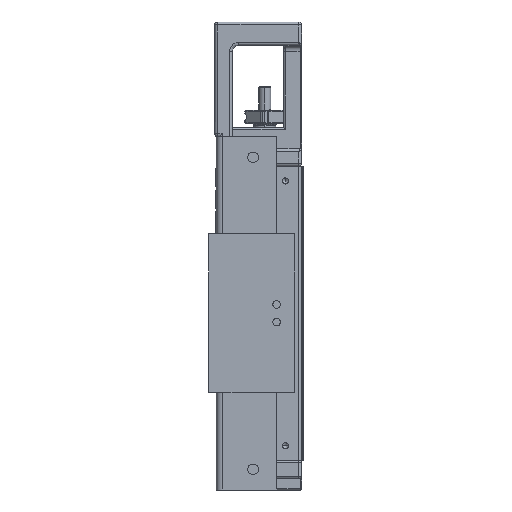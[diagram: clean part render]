
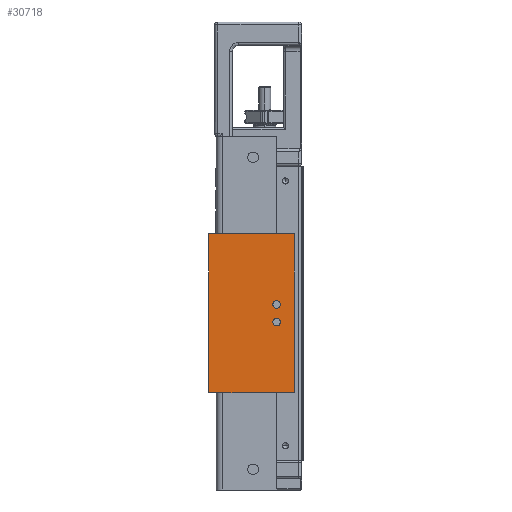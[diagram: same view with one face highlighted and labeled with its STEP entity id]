
A CAD part, left-side view. The second image highlights one B-rep face of the part: STEP entity #30718.
In plain terms, the highlighted planar face has unit normal (-1, 0, 0).
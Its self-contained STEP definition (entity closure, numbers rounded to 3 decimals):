
#114 = LINE ( 'NONE', #22625, #343 ) ;
#146 = DIRECTION ( 'NONE',  ( 1., 0., 0. ) ) ;
#343 = VECTOR ( 'NONE', #18994, 1000. ) ;
#3527 = CARTESIAN_POINT ( 'NONE',  ( -41., 9., -52.95 ) ) ;
#3567 = CARTESIAN_POINT ( 'NONE',  ( -41., 32., -76.95 ) ) ;
#4064 = AXIS2_PLACEMENT_3D ( 'NONE', #3527, #29003, #7205 ) ;
#4401 = EDGE_CURVE ( 'NONE', #12089, #41185, #23559, .T. ) ;
#4915 = PLANE ( 'NONE',  #34372 ) ;
#7205 = DIRECTION ( 'NONE',  ( 0., 0., -1. ) ) ;
#8247 = AXIS2_PLACEMENT_3D ( 'NONE', #21982, #146, #25631 ) ;
#8952 = CARTESIAN_POINT ( 'NONE',  ( -41., 32., -76.95 ) ) ;
#9197 = EDGE_CURVE ( 'NONE', #18853, #39759, #114, .T. ) ;
#10942 = CARTESIAN_POINT ( 'NONE',  ( -41., 32., -76.95 ) ) ;
#11086 = DIRECTION ( 'NONE',  ( 0., 1., 0. ) ) ;
#12089 = VERTEX_POINT ( 'NONE', #16295 ) ;
#12906 = ORIENTED_EDGE ( 'NONE', *, *, #4401, .T. ) ;
#13298 = EDGE_LOOP ( 'NONE', ( #16132, #15390, #16934, #16510 ) ) ;
#13809 = CARTESIAN_POINT ( 'NONE',  ( -41., 9., -46.95 ) ) ;
#14485 = CIRCLE ( 'NONE', #30811, 1.3 ) ;
#14844 = ORIENTED_EDGE ( 'NONE', *, *, #18044, .T. ) ;
#15390 = ORIENTED_EDGE ( 'NONE', *, *, #39557, .T. ) ;
#15646 = CARTESIAN_POINT ( 'NONE',  ( -41., 9., -46.95 ) ) ;
#16132 = ORIENTED_EDGE ( 'NONE', *, *, #41255, .F. ) ;
#16295 = CARTESIAN_POINT ( 'NONE',  ( -41., 9., -51.65 ) ) ;
#16510 = ORIENTED_EDGE ( 'NONE', *, *, #9197, .F. ) ;
#16934 = ORIENTED_EDGE ( 'NONE', *, *, #34584, .F. ) ;
#17493 = DIRECTION ( 'NONE',  ( 0., 0., -1. ) ) ;
#18044 = EDGE_CURVE ( 'NONE', #41185, #12089, #44036, .T. ) ;
#18422 = ORIENTED_EDGE ( 'NONE', *, *, #40181, .T. ) ;
#18853 = VERTEX_POINT ( 'NONE', #33942 ) ;
#18994 = DIRECTION ( 'NONE',  ( 0., 0., -1. ) ) ;
#19320 = DIRECTION ( 'NONE',  ( 0., 0., -1. ) ) ;
#20089 = ORIENTED_EDGE ( 'NONE', *, *, #44618, .T. ) ;
#21982 = CARTESIAN_POINT ( 'NONE',  ( -41., 9., -52.95 ) ) ;
#22625 = CARTESIAN_POINT ( 'NONE',  ( -41., 3., -22.95 ) ) ;
#23058 = CARTESIAN_POINT ( 'NONE',  ( -41., 32., -76.95 ) ) ;
#23493 = VERTEX_POINT ( 'NONE', #10942 ) ;
#23559 = CIRCLE ( 'NONE', #4064, 1.3 ) ;
#23564 = CARTESIAN_POINT ( 'NONE',  ( -41., 9., -54.25 ) ) ;
#25579 = LINE ( 'NONE', #8952, #35190 ) ;
#25631 = DIRECTION ( 'NONE',  ( 0., 0., -1. ) ) ;
#25754 = DIRECTION ( 'NONE',  ( -1., 0., 0. ) ) ;
#26467 = VECTOR ( 'NONE', #45480, 1000. ) ;
#28862 = AXIS2_PLACEMENT_3D ( 'NONE', #13809, #39180, #17493 ) ;
#29003 = DIRECTION ( 'NONE',  ( 1., 0., 0. ) ) ;
#29118 = FACE_BOUND ( 'NONE', #39202, .T. ) ;
#30138 = FACE_OUTER_BOUND ( 'NONE', #13298, .T. ) ;
#30317 = FACE_BOUND ( 'NONE', #38354, .T. ) ;
#30387 = DIRECTION ( 'NONE',  ( 0., 0., 1. ) ) ;
#30718 = ADVANCED_FACE ( 'NONE', ( #29118, #30138, #30317 ), #4915, .T. ) ;
#30730 = DIRECTION ( 'NONE',  ( 0., 0., -1. ) ) ;
#30811 = AXIS2_PLACEMENT_3D ( 'NONE', #15646, #40972, #19320 ) ;
#31697 = LINE ( 'NONE', #3567, #41336 ) ;
#33942 = CARTESIAN_POINT ( 'NONE',  ( -41., 3., -22.95 ) ) ;
#34372 = AXIS2_PLACEMENT_3D ( 'NONE', #23058, #25754, #30387 ) ;
#34499 = CARTESIAN_POINT ( 'NONE',  ( -41., 32., -22.95 ) ) ;
#34584 = EDGE_CURVE ( 'NONE', #39759, #23493, #31697, .T. ) ;
#35190 = VECTOR ( 'NONE', #30730, 1000. ) ;
#35234 = CIRCLE ( 'NONE', #28862, 1.3 ) ;
#37520 = VERTEX_POINT ( 'NONE', #39163 ) ;
#38354 = EDGE_LOOP ( 'NONE', ( #20089, #18422 ) ) ;
#38856 = VERTEX_POINT ( 'NONE', #42753 ) ;
#39163 = CARTESIAN_POINT ( 'NONE',  ( -41., 32., -22.95 ) ) ;
#39180 = DIRECTION ( 'NONE',  ( 1., 0., 0. ) ) ;
#39202 = EDGE_LOOP ( 'NONE', ( #14844, #12906 ) ) ;
#39557 = EDGE_CURVE ( 'NONE', #37520, #23493, #25579, .T. ) ;
#39759 = VERTEX_POINT ( 'NONE', #46223 ) ;
#40032 = LINE ( 'NONE', #34499, #26467 ) ;
#40181 = EDGE_CURVE ( 'NONE', #38856, #45366, #35234, .T. ) ;
#40390 = CARTESIAN_POINT ( 'NONE',  ( -41., 9., -48.25 ) ) ;
#40972 = DIRECTION ( 'NONE',  ( 1., 0., 0. ) ) ;
#41185 = VERTEX_POINT ( 'NONE', #23564 ) ;
#41255 = EDGE_CURVE ( 'NONE', #37520, #18853, #40032, .T. ) ;
#41336 = VECTOR ( 'NONE', #11086, 1000. ) ;
#42753 = CARTESIAN_POINT ( 'NONE',  ( -41., 9., -45.65 ) ) ;
#44036 = CIRCLE ( 'NONE', #8247, 1.3 ) ;
#44618 = EDGE_CURVE ( 'NONE', #45366, #38856, #14485, .T. ) ;
#45366 = VERTEX_POINT ( 'NONE', #40390 ) ;
#45480 = DIRECTION ( 'NONE',  ( 0., -1., 0. ) ) ;
#46223 = CARTESIAN_POINT ( 'NONE',  ( -41., 3., -76.95 ) ) ;
